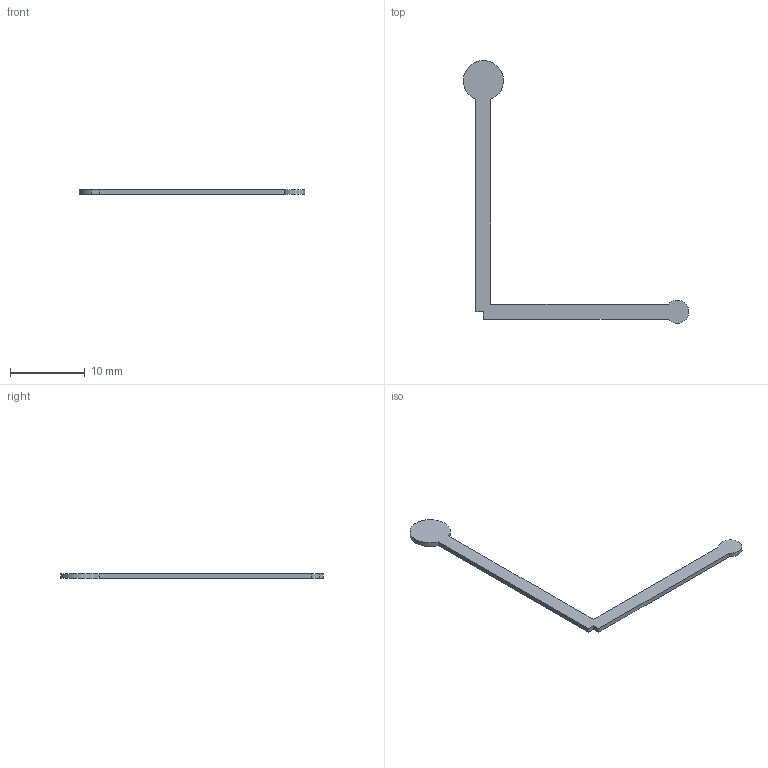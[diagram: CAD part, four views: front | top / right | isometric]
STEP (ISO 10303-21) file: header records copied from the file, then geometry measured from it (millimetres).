
FILE_DESCRIPTION(('Open CASCADE Model'),'2;1');
FILE_NAME('Open CASCADE Shape Model','2026-09-06T11:30:50',('Author'),( 'Open CASCADE'),'Open CASCADE STEP processor 7.7','Open CASCADE 7.7' ,'Unknown');
FILE_SCHEMA(('AUTOMOTIVE_DESIGN { 1 0 10303 214 1 1 1 1 }'));
Length unit declared in the file: millimetre
Products named in the file (1): Open CASCADE STEP translator 7.7 33
Bounding box: 30.25 x 35.25 x 0.6 mm (x, y, z)
Volume: 81.2 mm3; surface area: 348.1 mm2
Topology: 1 solids, 1 shells, 10 faces, 24 edges, 16 vertices
Faces by surface type: plane 8, cylinder 2
Entity records: 615 total; most frequent: CARTESIAN_POINT 107, DIRECTION 95, LINE 62, VECTOR 62, ORIENTED_EDGE 48, PCURVE 48, DEFINITIONAL_REPRESENTATION 48, EDGE_CURVE 24
